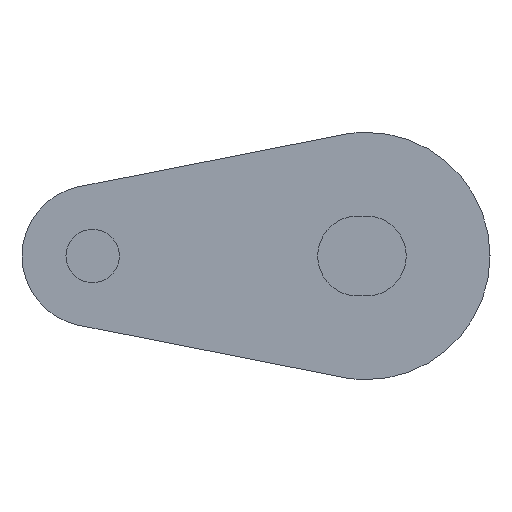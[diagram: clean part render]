
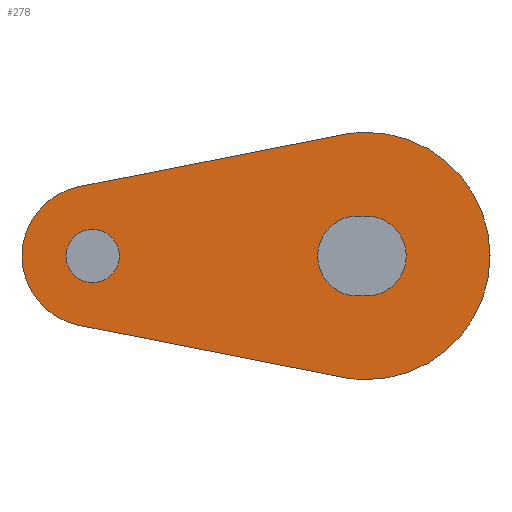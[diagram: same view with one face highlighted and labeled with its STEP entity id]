
A CAD part, left-side view. The second image highlights one B-rep face of the part: STEP entity #278.
In plain terms, the highlighted planar face has unit normal (-1, 0, 0).
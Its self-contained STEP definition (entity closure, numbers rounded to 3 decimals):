
#13 = CIRCLE ( 'NONE', #253, 2.26 ) ;
#20 = FACE_OUTER_BOUND ( 'NONE', #887, .T. ) ;
#22 = FACE_BOUND ( 'NONE', #970, .T. ) ;
#26 = FACE_BOUND ( 'NONE', #1056, .T. ) ;
#75 = LINE ( 'NONE', #531, #143 ) ;
#91 = CIRCLE ( 'NONE', #200, 7. ) ;
#106 = CIRCLE ( 'NONE', #235, 7. ) ;
#120 = CIRCLE ( 'NONE', #244, 1.51 ) ;
#127 = CIRCLE ( 'NONE', #181, 1.51 ) ;
#139 = CIRCLE ( 'NONE', #173, 2.26 ) ;
#141 = CIRCLE ( 'NONE', #239, 7. ) ;
#143 = VECTOR ( 'NONE', #529, 1000. ) ;
#158 = EDGE_CURVE ( 'NONE', #488, #359, #1027, .T. ) ;
#159 = EDGE_CURVE ( 'NONE', #494, #488, #883, .T. ) ;
#160 = EDGE_CURVE ( 'NONE', #359, #382, #1033, .T. ) ;
#161 = EDGE_CURVE ( 'NONE', #508, #490, #1045, .T. ) ;
#170 = EDGE_CURVE ( 'NONE', #492, #468, #127, .T. ) ;
#171 = EDGE_CURVE ( 'NONE', #468, #492, #120, .T. ) ;
#173 = AXIS2_PLACEMENT_3D ( 'NONE', #460, #431, #432 ) ;
#174 = EDGE_CURVE ( 'NONE', #490, #496, #13, .T. ) ;
#176 = EDGE_CURVE ( 'NONE', #504, #494, #141, .T. ) ;
#177 = EDGE_CURVE ( 'NONE', #346, #508, #139, .T. ) ;
#178 = EDGE_CURVE ( 'NONE', #496, #346, #75, .T. ) ;
#181 = AXIS2_PLACEMENT_3D ( 'NONE', #333, #327, #328 ) ;
#200 = AXIS2_PLACEMENT_3D ( 'NONE', #418, #435, #420 ) ;
#207 = EDGE_CURVE ( 'NONE', #361, #504, #106, .T. ) ;
#220 = EDGE_CURVE ( 'NONE', #382, #361, #91, .T. ) ;
#235 = AXIS2_PLACEMENT_3D ( 'NONE', #377, #373, #367 ) ;
#239 = AXIS2_PLACEMENT_3D ( 'NONE', #450, #397, #528 ) ;
#242 = AXIS2_PLACEMENT_3D ( 'NONE', #342, #512, #513 ) ;
#244 = AXIS2_PLACEMENT_3D ( 'NONE', #331, #356, #326 ) ;
#253 = AXIS2_PLACEMENT_3D ( 'NONE', #322, #449, #459 ) ;
#278 = ADVANCED_FACE ( 'NONE', ( #26, #22, #20 ), #753, .T. ) ;
#322 = CARTESIAN_POINT ( 'NONE',  ( -282.5, 0., 0. ) ) ;
#326 = DIRECTION ( 'NONE',  ( 0., 0., -1. ) ) ;
#327 = DIRECTION ( 'NONE',  ( 1., 0., 0. ) ) ;
#328 = DIRECTION ( 'NONE',  ( 0., 0., -1. ) ) ;
#331 = CARTESIAN_POINT ( 'NONE',  ( -282.5, 15.5, 0. ) ) ;
#333 = CARTESIAN_POINT ( 'NONE',  ( -282.5, 15.5, 0. ) ) ;
#342 = CARTESIAN_POINT ( 'NONE',  ( -282.5, 15.5, 0. ) ) ;
#346 = VERTEX_POINT ( 'NONE', #684 ) ;
#348 = CARTESIAN_POINT ( 'NONE',  ( -282.5, 16.274, 3.924 ) ) ;
#356 = DIRECTION ( 'NONE',  ( 1., 0., 0. ) ) ;
#359 = VERTEX_POINT ( 'NONE', #679 ) ;
#361 = VERTEX_POINT ( 'NONE', #677 ) ;
#367 = DIRECTION ( 'NONE',  ( 0., 0., -1. ) ) ;
#373 = DIRECTION ( 'NONE',  ( 1., 0., 0. ) ) ;
#377 = CARTESIAN_POINT ( 'NONE',  ( -282.5, 0., 0. ) ) ;
#382 = VERTEX_POINT ( 'NONE', #673 ) ;
#397 = DIRECTION ( 'NONE',  ( 1., 0., 0. ) ) ;
#418 = CARTESIAN_POINT ( 'NONE',  ( -282.5, 0., 0. ) ) ;
#420 = DIRECTION ( 'NONE',  ( 0., 0., -1. ) ) ;
#431 = DIRECTION ( 'NONE',  ( 1., 0., 0. ) ) ;
#432 = DIRECTION ( 'NONE',  ( 0., 0., -1. ) ) ;
#435 = DIRECTION ( 'NONE',  ( 1., 0., 0. ) ) ;
#449 = DIRECTION ( 'NONE',  ( 1., 0., 0. ) ) ;
#450 = CARTESIAN_POINT ( 'NONE',  ( -282.5, 0., 0. ) ) ;
#459 = DIRECTION ( 'NONE',  ( 0., 0., -1. ) ) ;
#460 = CARTESIAN_POINT ( 'NONE',  ( -282.5, 0.5, 0. ) ) ;
#462 = DIRECTION ( 'NONE',  ( 0., -1., 0. ) ) ;
#466 = DIRECTION ( 'NONE',  ( 0., -0.981, 0.194 ) ) ;
#468 = VERTEX_POINT ( 'NONE', #660 ) ;
#488 = VERTEX_POINT ( 'NONE', #652 ) ;
#490 = VERTEX_POINT ( 'NONE', #602 ) ;
#492 = VERTEX_POINT ( 'NONE', #605 ) ;
#494 = VERTEX_POINT ( 'NONE', #604 ) ;
#496 = VERTEX_POINT ( 'NONE', #607 ) ;
#502 = CARTESIAN_POINT ( 'NONE',  ( -282.5, 1.355, -6.868 ) ) ;
#503 = DIRECTION ( 'NONE',  ( 0., 0.981, 0.194 ) ) ;
#504 = VERTEX_POINT ( 'NONE', #606 ) ;
#508 = VERTEX_POINT ( 'NONE', #609 ) ;
#512 = DIRECTION ( 'NONE',  ( 1., 0., 0. ) ) ;
#513 = DIRECTION ( 'NONE',  ( 0., 0., -1. ) ) ;
#518 = CARTESIAN_POINT ( 'NONE',  ( -282.5, 0.5, 2.26 ) ) ;
#528 = DIRECTION ( 'NONE',  ( 0., 0., -1. ) ) ;
#529 = DIRECTION ( 'NONE',  ( 0., 1., 0. ) ) ;
#531 = CARTESIAN_POINT ( 'NONE',  ( -282.5, 0.5, -2.26 ) ) ;
#572 = AXIS2_PLACEMENT_3D ( 'NONE', #797, #775, #799 ) ;
#602 = CARTESIAN_POINT ( 'NONE',  ( -282.5, 0., 2.26 ) ) ;
#604 = CARTESIAN_POINT ( 'NONE',  ( -282.5, 1.355, -6.868 ) ) ;
#605 = CARTESIAN_POINT ( 'NONE',  ( -282.5, 15.5, 1.51 ) ) ;
#606 = CARTESIAN_POINT ( 'NONE',  ( -282.5, 0., -7. ) ) ;
#607 = CARTESIAN_POINT ( 'NONE',  ( -282.5, 0., -2.26 ) ) ;
#609 = CARTESIAN_POINT ( 'NONE',  ( -282.5, 0.5, 2.26 ) ) ;
#652 = CARTESIAN_POINT ( 'NONE',  ( -282.5, 16.274, -3.924 ) ) ;
#660 = CARTESIAN_POINT ( 'NONE',  ( -282.5, 15.5, -1.51 ) ) ;
#673 = CARTESIAN_POINT ( 'NONE',  ( -282.5, 1.355, 6.868 ) ) ;
#677 = CARTESIAN_POINT ( 'NONE',  ( -282.5, 0., 7. ) ) ;
#679 = CARTESIAN_POINT ( 'NONE',  ( -282.5, 16.274, 3.924 ) ) ;
#684 = CARTESIAN_POINT ( 'NONE',  ( -282.5, 0.5, -2.26 ) ) ;
#753 = PLANE ( 'NONE',  #572 ) ;
#775 = DIRECTION ( 'NONE',  ( -1., 0., 0. ) ) ;
#797 = CARTESIAN_POINT ( 'NONE',  ( -282.5, 15.5, 0. ) ) ;
#799 = DIRECTION ( 'NONE',  ( 0., 0., -1. ) ) ;
#814 = ORIENTED_EDGE ( 'NONE', *, *, #177, .T. ) ;
#816 = ORIENTED_EDGE ( 'NONE', *, *, #171, .T. ) ;
#817 = ORIENTED_EDGE ( 'NONE', *, *, #170, .T. ) ;
#820 = ORIENTED_EDGE ( 'NONE', *, *, #160, .F. ) ;
#822 = ORIENTED_EDGE ( 'NONE', *, *, #161, .T. ) ;
#823 = ORIENTED_EDGE ( 'NONE', *, *, #174, .T. ) ;
#824 = ORIENTED_EDGE ( 'NONE', *, *, #178, .T. ) ;
#825 = ORIENTED_EDGE ( 'NONE', *, *, #220, .F. ) ;
#826 = ORIENTED_EDGE ( 'NONE', *, *, #159, .F. ) ;
#834 = ORIENTED_EDGE ( 'NONE', *, *, #176, .F. ) ;
#838 = ORIENTED_EDGE ( 'NONE', *, *, #207, .F. ) ;
#846 = ORIENTED_EDGE ( 'NONE', *, *, #158, .F. ) ;
#883 = LINE ( 'NONE', #502, #978 ) ;
#887 = EDGE_LOOP ( 'NONE', ( #846, #826, #834, #838, #825, #820 ) ) ;
#970 = EDGE_LOOP ( 'NONE', ( #816, #817 ) ) ;
#978 = VECTOR ( 'NONE', #503, 1000. ) ;
#1027 = CIRCLE ( 'NONE', #242, 4. ) ;
#1031 = VECTOR ( 'NONE', #462, 1000. ) ;
#1032 = VECTOR ( 'NONE', #466, 1000. ) ;
#1033 = LINE ( 'NONE', #348, #1032 ) ;
#1045 = LINE ( 'NONE', #518, #1031 ) ;
#1056 = EDGE_LOOP ( 'NONE', ( #814, #822, #823, #824 ) ) ;
